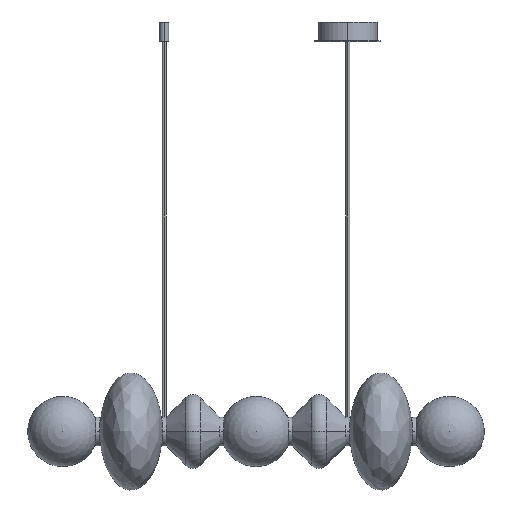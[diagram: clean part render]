
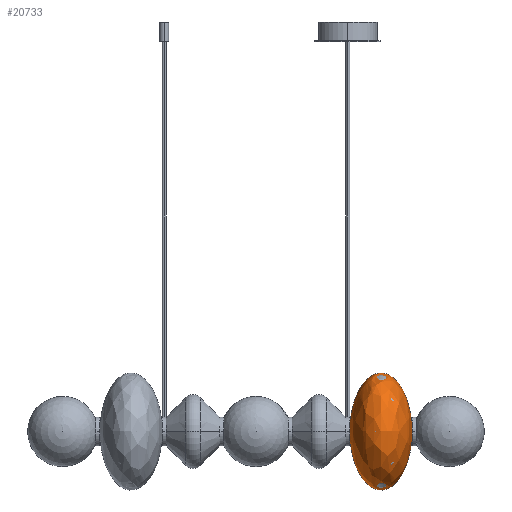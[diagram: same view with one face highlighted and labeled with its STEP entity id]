
A CAD part, top view. The second image highlights one B-rep face of the part: STEP entity #20733.
In plain terms, the highlighted free-form (B-spline) face has degree [3, 3] with [4, 4] control points.
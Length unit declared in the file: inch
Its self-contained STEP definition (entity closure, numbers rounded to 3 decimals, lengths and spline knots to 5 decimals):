
#58 = ORIENTED_EDGE ( 'NONE', *, *, #874, .F. ) ;
#112 = CARTESIAN_POINT ( 'NONE',  ( 9.47102, -0.23622, 0. ) ) ;
#447 = CARTESIAN_POINT ( 'NONE',  ( 9.47102, 0.23622, 0.47244 ) ) ;
#874 = EDGE_CURVE ( 'NONE', #10554, #17017, #7618, .T. ) ;
#2119 = CARTESIAN_POINT ( 'NONE',  ( 15.53208, -11.15486, 22.30971 ) ) ;
#2785 = EDGE_CURVE ( 'NONE', #18336, #11356, #4621, .T. ) ;
#2832 = CARTESIAN_POINT ( 'NONE',  ( 9.47102, 0.23622, 0. ) ) ;
#3043 = EDGE_CURVE ( 'NONE', #19755, #10554, #17797, .T. ) ;
#3162 = DIRECTION ( 'NONE',  ( 0., 0., 1. ) ) ;
#3177 = DIRECTION ( 'NONE',  ( 0., 0., 1. ) ) ;
#3466 = CARTESIAN_POINT ( 'NONE',  ( 15.7652, 0.23622, 0. ) ) ;
#3769 = CIRCLE ( 'NONE', #9429, 0.23622 ) ;
#4057 = CARTESIAN_POINT ( 'NONE',  ( 9.70414, -11.15486, 0. ) ) ;
#4621 = CIRCLE ( 'NONE', #13888, 0.23622 ) ;
#5116 = CARTESIAN_POINT ( 'NONE',  ( 9.70414, 11.15486, 22.30971 ) ) ;
#5126 =( BOUNDED_CURVE ( )  B_SPLINE_CURVE ( 3, ( #20374, #15141, #15024, #20256 ),
 .UNSPECIFIED., .F., .T. ) 
 B_SPLINE_CURVE_WITH_KNOTS ( ( 4, 4 ),
 ( 4.7524, 7.81397 ),
 .UNSPECIFIED. ) 
 CURVE ( )  GEOMETRIC_REPRESENTATION_ITEM ( )  RATIONAL_B_SPLINE_CURVE ( ( 1., 0.36, 0.36, 1. ) ) 
 REPRESENTATION_ITEM ( '' )  );
#5490 = CARTESIAN_POINT ( 'NONE',  ( 15.7652, 0., 0. ) ) ;
#5590 = CARTESIAN_POINT ( 'NONE',  ( 9.47102, 0., 0.23622 ) ) ;
#6105 = CARTESIAN_POINT ( 'NONE',  ( 15.7652, 0., 0.23622 ) ) ;
#6537 =( BOUNDED_SURFACE ( )  B_SPLINE_SURFACE ( 3, 3, ( 
 ( #12019, #7122, #20475, #3466 ),
 ( #13908, #2119, #12233, #8905 ),
 ( #16918, #15350, #5116, #6785 ),
 ( #112, #15684, #447, #13688 ) ),
 .UNSPECIFIED., .F., .F., .F. ) 
 B_SPLINE_SURFACE_WITH_KNOTS ( ( 4, 4 ),
 ( 4, 4 ),
 ( 0., 1. ),
 ( 0., 1. ),
 .UNSPECIFIED. ) 
 GEOMETRIC_REPRESENTATION_ITEM ( )  RATIONAL_B_SPLINE_SURFACE ( (
 ( 1., 0.333, 0.333, 1.),
 ( 0.36, 0.12, 0.12, 0.36),
 ( 0.36, 0.12, 0.12, 0.36),
 ( 1., 0.333, 0.333, 1.) ) ) 
 REPRESENTATION_ITEM ( '' )  SURFACE ( )  );
#6785 = CARTESIAN_POINT ( 'NONE',  ( 9.70414, 11.15486, 0. ) ) ;
#7058 = DIRECTION ( 'NONE',  ( -1., 0., 0. ) ) ;
#7122 = CARTESIAN_POINT ( 'NONE',  ( 15.7652, -0.23622, 0.47244 ) ) ;
#7264 = EDGE_CURVE ( 'NONE', #11356, #17017, #5126, .T. ) ;
#7618 = CIRCLE ( 'NONE', #19003, 0.23622 ) ;
#8905 = CARTESIAN_POINT ( 'NONE',  ( 15.53208, 11.15486, 0. ) ) ;
#9429 = AXIS2_PLACEMENT_3D ( 'NONE', #19278, #17608, #14485 ) ;
#9851 = DIRECTION ( 'NONE',  ( -1., 0., 0. ) ) ;
#10554 = VERTEX_POINT ( 'NONE', #5590 ) ;
#11028 = AXIS2_PLACEMENT_3D ( 'NONE', #16732, #14946, #3162 ) ;
#11356 = VERTEX_POINT ( 'NONE', #19691 ) ;
#12019 = CARTESIAN_POINT ( 'NONE',  ( 15.7652, -0.23622, 0. ) ) ;
#12182 = EDGE_LOOP ( 'NONE', ( #21016, #16810, #14004, #21450, #58, #21372 ) ) ;
#12233 = CARTESIAN_POINT ( 'NONE',  ( 15.53208, 11.15486, 22.30971 ) ) ;
#12611 = CARTESIAN_POINT ( 'NONE',  ( 9.47102, -0.23622, 0. ) ) ;
#12656 = EDGE_CURVE ( 'NONE', #20531, #18336, #3769, .T. ) ;
#13688 = CARTESIAN_POINT ( 'NONE',  ( 9.47102, 0.23622, 0. ) ) ;
#13888 = AXIS2_PLACEMENT_3D ( 'NONE', #5490, #7058, #17295 ) ;
#13908 = CARTESIAN_POINT ( 'NONE',  ( 15.53208, -11.15486, 0. ) ) ;
#14004 = ORIENTED_EDGE ( 'NONE', *, *, #2785, .T. ) ;
#14485 = DIRECTION ( 'NONE',  ( 0., 0., 1. ) ) ;
#14946 = DIRECTION ( 'NONE',  ( -1., 0., 0. ) ) ;
#15024 = CARTESIAN_POINT ( 'NONE',  ( 9.70414, 11.15486, 0. ) ) ;
#15141 = CARTESIAN_POINT ( 'NONE',  ( 15.53208, 11.15486, 0. ) ) ;
#15350 = CARTESIAN_POINT ( 'NONE',  ( 9.70414, -11.15486, 22.30971 ) ) ;
#15684 = CARTESIAN_POINT ( 'NONE',  ( 9.47102, -0.23622, 0.47244 ) ) ;
#16060 = CARTESIAN_POINT ( 'NONE',  ( 9.47102, -0.23622, 0. ) ) ;
#16381 = CARTESIAN_POINT ( 'NONE',  ( 15.7652, -0.23622, 0. ) ) ;
#16732 = CARTESIAN_POINT ( 'NONE',  ( 9.47102, 0., 0. ) ) ;
#16810 = ORIENTED_EDGE ( 'NONE', *, *, #12656, .T. ) ;
#16918 = CARTESIAN_POINT ( 'NONE',  ( 9.70414, -11.15486, 0. ) ) ;
#17017 = VERTEX_POINT ( 'NONE', #2832 ) ;
#17295 = DIRECTION ( 'NONE',  ( 0., 0., 1. ) ) ;
#17608 = DIRECTION ( 'NONE',  ( -1., 0., 0. ) ) ;
#17797 = CIRCLE ( 'NONE', #11028, 0.23622 ) ;
#18336 = VERTEX_POINT ( 'NONE', #6105 ) ;
#18876 = CARTESIAN_POINT ( 'NONE',  ( 9.47102, 0., 0. ) ) ;
#18914 =( BOUNDED_CURVE ( )  B_SPLINE_CURVE ( 3, ( #19298, #21178, #4057, #16060 ),
 .UNSPECIFIED., .F., .T. ) 
 B_SPLINE_CURVE_WITH_KNOTS ( ( 4, 4 ),
 ( 4.7524, 7.81397 ),
 .UNSPECIFIED. ) 
 CURVE ( )  GEOMETRIC_REPRESENTATION_ITEM ( )  RATIONAL_B_SPLINE_CURVE ( ( 1., 0.36, 0.36, 1. ) ) 
 REPRESENTATION_ITEM ( '' )  );
#19003 = AXIS2_PLACEMENT_3D ( 'NONE', #18876, #9851, #3177 ) ;
#19278 = CARTESIAN_POINT ( 'NONE',  ( 15.7652, 0., 0. ) ) ;
#19298 = CARTESIAN_POINT ( 'NONE',  ( 15.7652, -0.23622, 0. ) ) ;
#19691 = CARTESIAN_POINT ( 'NONE',  ( 15.7652, 0.23622, 0. ) ) ;
#19755 = VERTEX_POINT ( 'NONE', #12611 ) ;
#19875 = EDGE_CURVE ( 'NONE', #20531, #19755, #18914, .T. ) ;
#20256 = CARTESIAN_POINT ( 'NONE',  ( 9.47102, 0.23622, 0. ) ) ;
#20374 = CARTESIAN_POINT ( 'NONE',  ( 15.7652, 0.23622, 0. ) ) ;
#20475 = CARTESIAN_POINT ( 'NONE',  ( 15.7652, 0.23622, 0.47244 ) ) ;
#20531 = VERTEX_POINT ( 'NONE', #16381 ) ;
#20589 = FACE_OUTER_BOUND ( 'NONE', #12182, .T. ) ;
#20733 = ADVANCED_FACE ( 'NONE', ( #20589 ), #6537, .F. ) ;
#21016 = ORIENTED_EDGE ( 'NONE', *, *, #19875, .F. ) ;
#21178 = CARTESIAN_POINT ( 'NONE',  ( 15.53208, -11.15486, 0. ) ) ;
#21372 = ORIENTED_EDGE ( 'NONE', *, *, #3043, .F. ) ;
#21450 = ORIENTED_EDGE ( 'NONE', *, *, #7264, .T. ) ;
